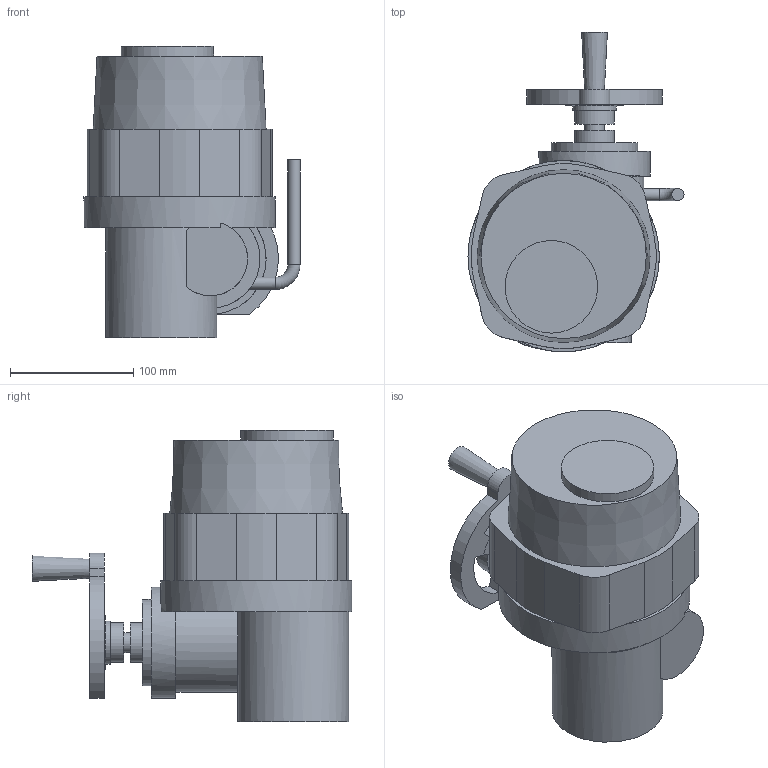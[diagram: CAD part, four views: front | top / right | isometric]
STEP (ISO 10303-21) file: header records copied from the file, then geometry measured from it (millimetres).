
FILE_DESCRIPTION(('STEP AP203'), '1');
FILE_NAME('Ýëåêòðîïðèâîä QT.A 010 áåç áëîêà óïðàâëåíèÿ', '', ('UNSPECIFIED'), ('UNSPECIFIED'), 'ASCON STEP Converter 1.6', 'ASCON Math Kernel', '');
FILE_SCHEMA(('CONFIG_CONTROL_DESIGN'));
Length unit declared in the file: millimetre
Bounding box: 175 x 259 x 236 mm (x, y, z)
Volume: 3603785.2 mm3; surface area: 189032.6 mm2
Topology: 1 solids, 1 shells, 90 faces, 215 edges, 139 vertices
Faces by surface type: plane 50, cylinder 36, cone 3, torus 1
Full cylindrical faces by diameter (mm): 6.7 x4, 10 x2, 16 x1, 20 x1, 32 x2, 35 x1, 70 x1, 75 x1, 90 x2, 155 x1
Entity records: 3676 total; most frequent: CARTESIAN_POINT 815, DIRECTION 463, ORIENTED_EDGE 390, EDGE_CURVE 195, AXIS2_PLACEMENT_3D 184, VERTEX_POINT 139, EDGE_LOOP 128, LINE 95
